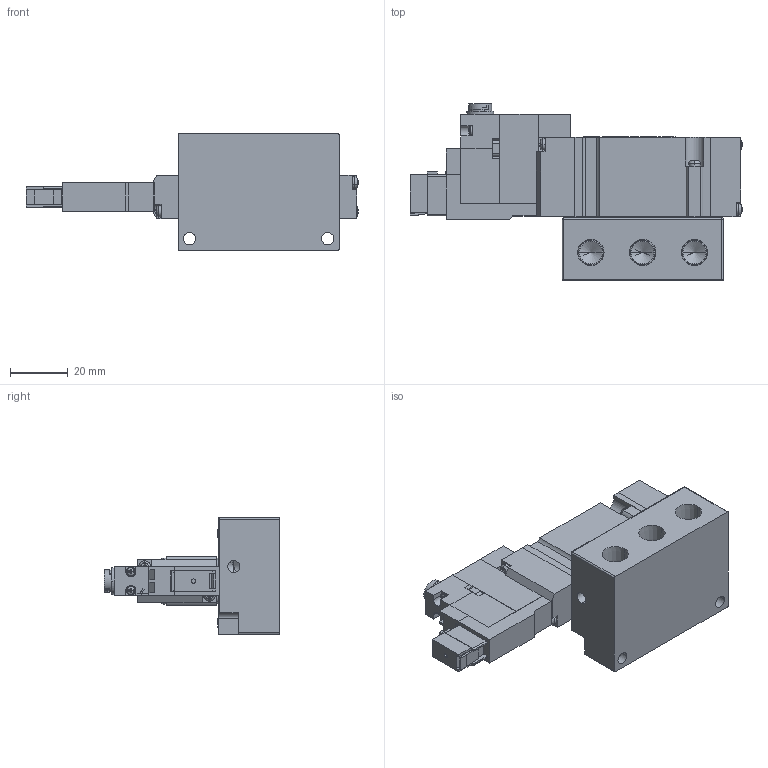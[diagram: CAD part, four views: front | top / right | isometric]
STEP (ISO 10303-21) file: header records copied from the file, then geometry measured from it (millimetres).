
FILE_DESCRIPTION (( 'STEP AP203' ), '1' );
FILE_NAME ('A12GS25#-#-#-E.STEP', '2016-02-04T02:26:08', ( 'Sam Lin' ), ( '' ), 'SwSTEP 2.0', 'SolidWorks 2013', '' );
FILE_SCHEMA (( 'CONFIG_CONTROL_DESIGN' ));
Length unit declared in the file: metre
Products named in the file (19): DC24-A05F-2; A12G-3; A12P墊片; A05RS25-3; A12P-1; A05RS25-4; A12P底座; A05FS25-6; ISO 7045 - M1.6 x 10; A12P-2; A12GS25#-#-#-E; A05RS25-5; ISO 7045 - M2.5 x 8-D4; A05RS25-6; mark-ADEX-A12; DC24-A05F-1; A12G-1; DC24-A05G-3; A12G-2
Assembly tree (25 placements, depth 2):
  A12GS25#-#-#-E
    A12P墊片
    A12P-1
    A12P底座
    A12P-2
    ISO 7045 - M2.5 x 8-D4  x6
    mark-ADEX-A12
    A12G-1
    A12G-2
    A12G-3
    A05RS25-3
    A05RS25-4
    ISO 7045 - M1.6 x 10  x2
    A05RS25-5
    A05RS25-6  x2
    DC24-A05F-1
    DC24-A05G-3
    DC24-A05F-2
    A05FS25-6
Bounding box: 115.3 x 61.1 x 40.5 mm (x, y, z)
Volume: 84756 mm3; surface area: 30492 mm2
Topology: 33 solids, 33 shells, 868 faces, 2201 edges, 1402 vertices
Faces by surface type: plane 562, cylinder 150, cone 96, bspline 60
Entity records: 22223 total; most frequent: CARTESIAN_POINT 5309, ORIENTED_EDGE 3054, DIRECTION 2993, EDGE_CURVE 1527, LINE 1103, VECTOR 1103, VERTEX_POINT 1004, AXIS2_PLACEMENT_3D 945
